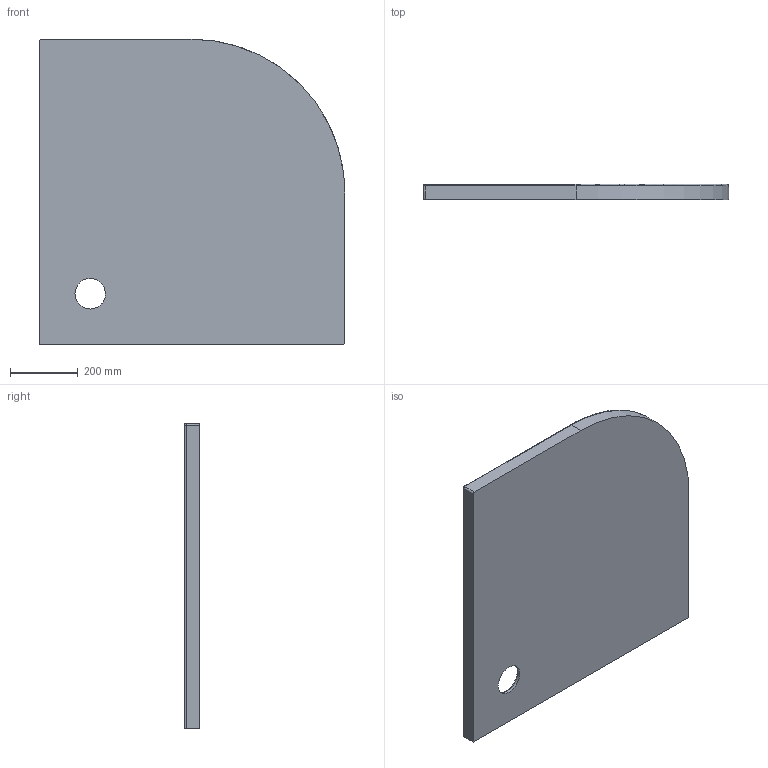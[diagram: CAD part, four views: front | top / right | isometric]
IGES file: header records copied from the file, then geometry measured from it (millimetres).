
Global section: file name: ea5719ae-c946-4c76-b6d2-44348d02645a; native system: unknown; preprocessor: unknown; author: unknown; organization: unknown; date: 20200103.083017; units: millimetre
Bounding box: 900 x 45 x 900 mm (x, y, z)
Volume: 22118428.5 mm3; surface area: 1718419.4 mm2
Topology: 1 solids, 1 shells, 45 faces, 96 edges, 54 vertices
Faces by surface type: bspline 45
